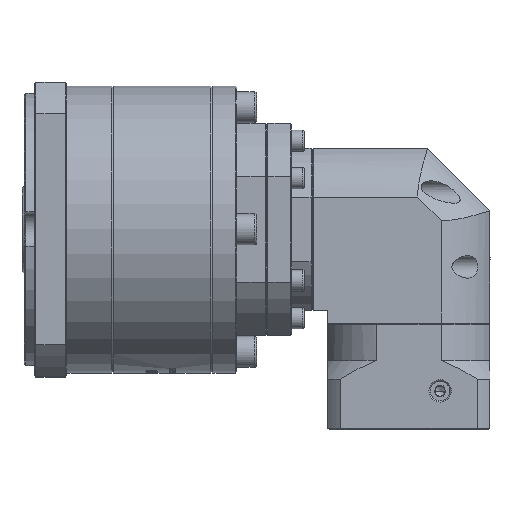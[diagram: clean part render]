
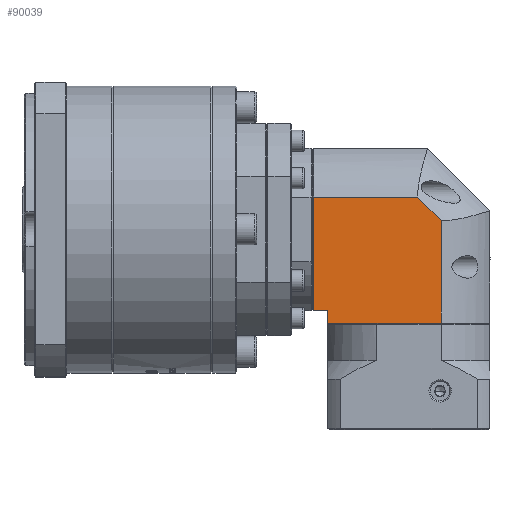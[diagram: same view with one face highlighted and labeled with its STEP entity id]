
A CAD part, top view. The second image highlights one B-rep face of the part: STEP entity #90039.
In plain terms, the highlighted planar face has unit normal (0, 0, 1).
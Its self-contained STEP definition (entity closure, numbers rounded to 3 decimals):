
#10082 = EDGE_CURVE ( 'NONE', #25056, #44968, #112045, .T. ) ;
#10495 = VERTEX_POINT ( 'NONE', #143057 ) ;
#12401 = FACE_OUTER_BOUND ( 'NONE', #89691, .T. ) ;
#16112 = PLANE ( 'NONE',  #30485 ) ;
#25056 = VERTEX_POINT ( 'NONE', #127187 ) ;
#28509 = DIRECTION ( 'NONE',  ( 0., 1., 0. ) ) ;
#28518 = DIRECTION ( 'NONE',  ( 0., 1., 0. ) ) ;
#29975 = ORIENTED_EDGE ( 'NONE', *, *, #92553, .F. ) ;
#30485 = AXIS2_PLACEMENT_3D ( 'NONE', #43035, #134419, #56102 ) ;
#39979 = VERTEX_POINT ( 'NONE', #96497 ) ;
#40989 = CARTESIAN_POINT ( 'NONE',  ( -68.696, -68.652, -58.508 ) ) ;
#43035 = CARTESIAN_POINT ( 'NONE',  ( -78.696, 1.348, -58.508 ) ) ;
#43087 = VERTEX_POINT ( 'NONE', #40989 ) ;
#43256 = VECTOR ( 'NONE', #28509, 1000. ) ;
#44968 = VERTEX_POINT ( 'NONE', #102222 ) ;
#53089 = VERTEX_POINT ( 'NONE', #66243 ) ;
#56102 = DIRECTION ( 'NONE',  ( -1., 0., 0. ) ) ;
#58488 = CARTESIAN_POINT ( 'NONE',  ( -78.696, -63.652, -58.508 ) ) ;
#58902 = VECTOR ( 'NONE', #156955, 1000. ) ;
#65510 = CARTESIAN_POINT ( 'NONE',  ( -23.206, 1.348, -58.508 ) ) ;
#66027 = ORIENTED_EDGE ( 'NONE', *, *, #122303, .F. ) ;
#66243 = CARTESIAN_POINT ( 'NONE',  ( -68.696, -63.652, -58.508 ) ) ;
#71062 = DIRECTION ( 'NONE',  ( -1., 0., 0. ) ) ;
#77928 = LINE ( 'NONE', #81544, #43256 ) ;
#80425 = CARTESIAN_POINT ( 'NONE',  ( -74.396, 1.348, -58.508 ) ) ;
#81544 = CARTESIAN_POINT ( 'NONE',  ( -68.696, 1.348, -58.508 ) ) ;
#83026 = LINE ( 'NONE', #151758, #136193 ) ;
#84584 = ORIENTED_EDGE ( 'NONE', *, *, #10082, .F. ) ;
#86553 = VECTOR ( 'NONE', #71062, 1000. ) ;
#88391 = VERTEX_POINT ( 'NONE', #97108 ) ;
#89691 = EDGE_LOOP ( 'NONE', ( #142179, #29975, #138890, #66027, #141919, #125874, #84584 ) ) ;
#90039 = ADVANCED_FACE ( 'NONE', ( #12401 ), #16112, .F. ) ;
#92553 = EDGE_CURVE ( 'NONE', #39979, #88391, #83026, .T. ) ;
#96497 = CARTESIAN_POINT ( 'NONE',  ( -74.396, -18.162, -58.508 ) ) ;
#96730 = CARTESIAN_POINT ( 'NONE',  ( -78.696, -68.652, -58.508 ) ) ;
#97108 = CARTESIAN_POINT ( 'NONE',  ( -32.703, -18.162, -58.508 ) ) ;
#97207 = LINE ( 'NONE', #106817, #162689 ) ;
#102222 = CARTESIAN_POINT ( 'NONE',  ( -23.206, -68.652, -58.508 ) ) ;
#103555 = EDGE_CURVE ( 'NONE', #88391, #25056, #97207, .T. ) ;
#106817 = CARTESIAN_POINT ( 'NONE',  ( -32.703, -18.162, -58.508 ) ) ;
#107681 = EDGE_CURVE ( 'NONE', #43087, #53089, #77928, .T. ) ;
#112045 = LINE ( 'NONE', #65510, #58902 ) ;
#112348 = DIRECTION ( 'NONE',  ( 1., 0., 0. ) ) ;
#116008 = LINE ( 'NONE', #80425, #146723 ) ;
#122303 = EDGE_CURVE ( 'NONE', #53089, #10495, #127517, .T. ) ;
#123577 = EDGE_CURVE ( 'NONE', #44968, #43087, #152047, .T. ) ;
#125874 = ORIENTED_EDGE ( 'NONE', *, *, #123577, .F. ) ;
#125957 = EDGE_CURVE ( 'NONE', #10495, #39979, #116008, .T. ) ;
#127187 = CARTESIAN_POINT ( 'NONE',  ( -23.206, -27.66, -58.508 ) ) ;
#127517 = LINE ( 'NONE', #58488, #162227 ) ;
#133750 = DIRECTION ( 'NONE',  ( 0.707, -0.707, 0. ) ) ;
#134419 = DIRECTION ( 'NONE',  ( 0., 0., -1. ) ) ;
#136193 = VECTOR ( 'NONE', #112348, 1000. ) ;
#138890 = ORIENTED_EDGE ( 'NONE', *, *, #125957, .F. ) ;
#141919 = ORIENTED_EDGE ( 'NONE', *, *, #107681, .F. ) ;
#142179 = ORIENTED_EDGE ( 'NONE', *, *, #103555, .F. ) ;
#143057 = CARTESIAN_POINT ( 'NONE',  ( -74.396, -63.652, -58.508 ) ) ;
#146723 = VECTOR ( 'NONE', #28518, 1000. ) ;
#151758 = CARTESIAN_POINT ( 'NONE',  ( -78.696, -18.162, -58.508 ) ) ;
#152047 = LINE ( 'NONE', #96730, #86553 ) ;
#156955 = DIRECTION ( 'NONE',  ( 0., -1., 0. ) ) ;
#162227 = VECTOR ( 'NONE', #164682, 1000. ) ;
#162689 = VECTOR ( 'NONE', #133750, 1000. ) ;
#164682 = DIRECTION ( 'NONE',  ( -1., 0., 0. ) ) ;
